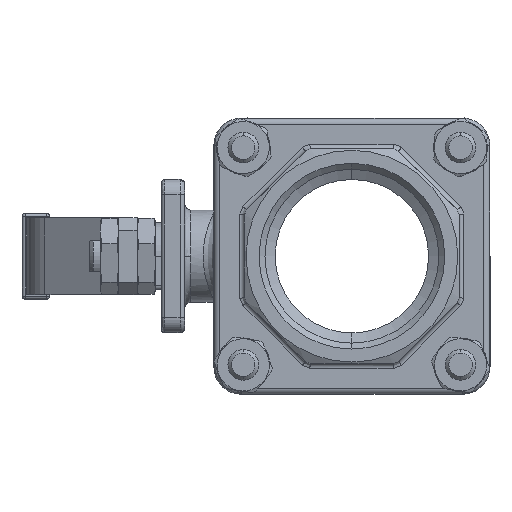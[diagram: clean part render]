
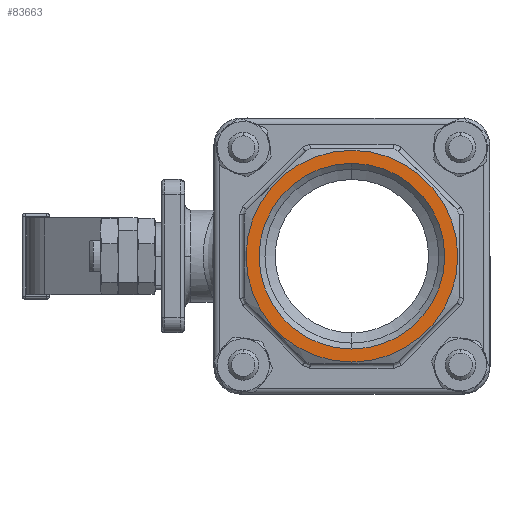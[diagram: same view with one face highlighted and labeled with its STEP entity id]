
A CAD part, left-side view. The second image highlights one B-rep face of the part: STEP entity #83663.
In plain terms, the highlighted planar face has unit normal (-1, 0, 0).
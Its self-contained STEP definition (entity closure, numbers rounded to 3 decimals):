
#29662 = DIRECTION ( 'NONE',  ( 0., 0., -1. ) ) ;
#29664 = DIRECTION ( 'NONE',  ( 1., 0., 0. ) ) ;
#29690 = CARTESIAN_POINT ( 'NONE',  ( -68.1, 0., 0. ) ) ;
#29691 = AXIS2_PLACEMENT_3D ( 'NONE', #29690, #29664, #29662 ) ;
#29693 = CIRCLE ( 'NONE', #29691, 34.5 ) ;
#32559 = DIRECTION ( 'NONE',  ( 0., 1., 0. ) ) ;
#32560 = DIRECTION ( 'NONE',  ( 1., 0., 0. ) ) ;
#32562 = AXIS2_PLACEMENT_3D ( 'NONE', #32568, #32560, #32559 ) ;
#32568 = CARTESIAN_POINT ( 'NONE',  ( -68.1, -34.914, -34.914 ) ) ;
#32569 = PLANE ( 'NONE',  #32562 ) ;
#32570 = FACE_OUTER_BOUND ( 'NONE', #73206, .T. ) ;
#32576 = FACE_BOUND ( 'NONE', #82616, .T. ) ;
#33117 = DIRECTION ( 'NONE',  ( 0., 0., 1. ) ) ;
#33148 = DIRECTION ( 'NONE',  ( -1., 0., 0. ) ) ;
#33150 = CARTESIAN_POINT ( 'NONE',  ( -68.1, 0., 0. ) ) ;
#33152 = AXIS2_PLACEMENT_3D ( 'NONE', #33150, #33148, #33117 ) ;
#33154 = CIRCLE ( 'NONE', #33152, 30.25 ) ;
#38530 = CARTESIAN_POINT ( 'NONE',  ( -68.1, 0., 0. ) ) ;
#38590 = CARTESIAN_POINT ( 'NONE',  ( -68.1, 0., 30.25 ) ) ;
#38592 = DIRECTION ( 'NONE',  ( 0., 0., 1. ) ) ;
#38594 = DIRECTION ( 'NONE',  ( -1., 0., 0. ) ) ;
#38596 = CARTESIAN_POINT ( 'NONE',  ( -68.1, 0., 0. ) ) ;
#38597 = AXIS2_PLACEMENT_3D ( 'NONE', #38596, #38594, #38592 ) ;
#38599 = CIRCLE ( 'NONE', #38597, 30.25 ) ;
#38682 = DIRECTION ( 'NONE',  ( 0., 0., -1. ) ) ;
#38684 = DIRECTION ( 'NONE',  ( 1., 0., 0. ) ) ;
#38686 = AXIS2_PLACEMENT_3D ( 'NONE', #38530, #38684, #38682 ) ;
#38688 = CIRCLE ( 'NONE', #38686, 34.5 ) ;
#38708 = CARTESIAN_POINT ( 'NONE',  ( -68.1, 0., -30.25 ) ) ;
#39004 = CARTESIAN_POINT ( 'NONE',  ( -68.1, 0., -34.5 ) ) ;
#39006 = CARTESIAN_POINT ( 'NONE',  ( -68.1, 0., 34.5 ) ) ;
#73169 = EDGE_CURVE ( 'NONE', #95021, #95022, #29693, .T. ) ;
#73185 = ORIENTED_EDGE ( 'NONE', *, *, #94933, .F. ) ;
#73206 = EDGE_LOOP ( 'NONE', ( #79639, #83918 ) ) ;
#79639 = ORIENTED_EDGE ( 'NONE', *, *, #94953, .F. ) ;
#81205 = ORIENTED_EDGE ( 'NONE', *, *, #83917, .F. ) ;
#82616 = EDGE_LOOP ( 'NONE', ( #81205, #73185 ) ) ;
#83663 = ADVANCED_FACE ( 'NONE', ( #32576, #32570 ), #32569, .F. ) ;
#83917 = EDGE_CURVE ( 'NONE', #94934, #94981, #33154, .T. ) ;
#83918 = ORIENTED_EDGE ( 'NONE', *, *, #73169, .F. ) ;
#94933 = EDGE_CURVE ( 'NONE', #94981, #94934, #38599, .T. ) ;
#94934 = VERTEX_POINT ( 'NONE', #38590 ) ;
#94953 = EDGE_CURVE ( 'NONE', #95022, #95021, #38688, .T. ) ;
#94981 = VERTEX_POINT ( 'NONE', #38708 ) ;
#95021 = VERTEX_POINT ( 'NONE', #39006 ) ;
#95022 = VERTEX_POINT ( 'NONE', #39004 ) ;
